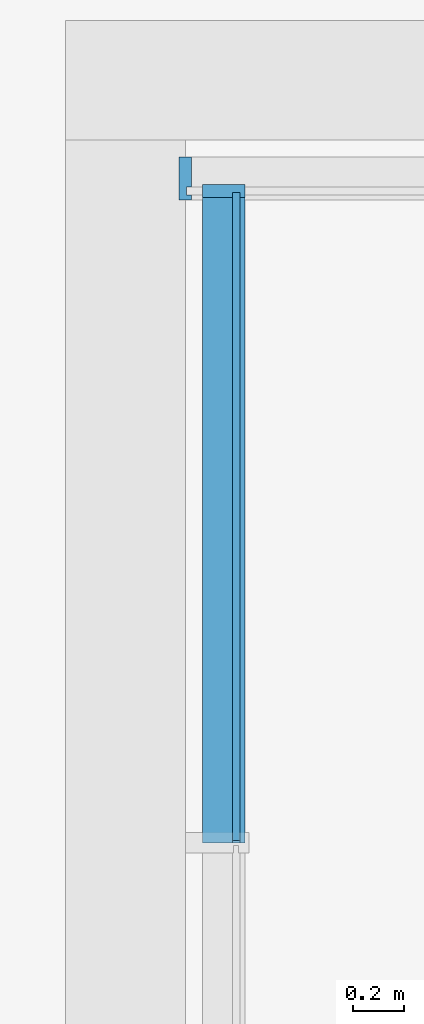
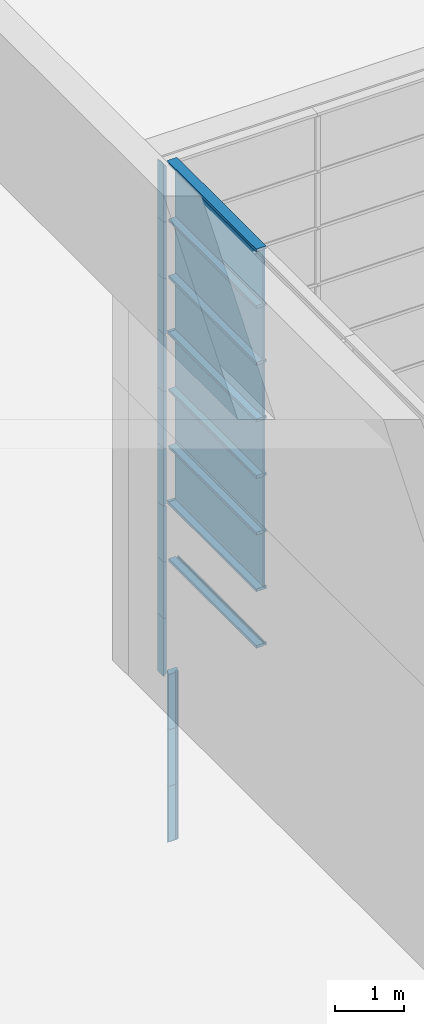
# One storey, part 28 of 105: 28 building element parts, 7 elements without a shape of their own.
"""IFC4 building model written with IfcOpenShell, lengths in millimetres."""

from ifc_helpers import new_model, entity, si_unit, converted_unit, derived_unit, direction, frame, origin_with_axes, place, context, subcontext, project, spatial, triangles, material, element, aggregate, save


model = new_model("IFC4")

# Units and contexts
model_context = context("Model", 3, precision=1e-05, world=origin_with_axes(), true_north=direction((0.0, 1.0)))
body_context = subcontext(model_context, "Body", "Model", "MODEL_VIEW")
ifc_project = project(units=[si_unit("LENGTHUNIT", "METRE", prefix="MILLI"), si_unit("AREAUNIT", "SQUARE_METRE"), si_unit("VOLUMEUNIT", "CUBIC_METRE"), converted_unit("PLANEANGLEUNIT", "DEGREE", entity("IfcLengthMeasure", 0.017453), si_unit("PLANEANGLEUNIT", "RADIAN"), dimensions=[0, 0, 0, 0, 0, 0, 0]), si_unit("SOLIDANGLEUNIT", "STERADIAN"), si_unit("MASSUNIT", "GRAM"), si_unit("TIMEUNIT", "SECOND"), si_unit("THERMODYNAMICTEMPERATUREUNIT", "DEGREE_CELSIUS"), si_unit("LUMINOUSINTENSITYUNIT", "LUMEN"), si_unit("POWERUNIT", "WATT"), derived_unit("THERMALTRANSMITTANCEUNIT", [(si_unit("POWERUNIT", "WATT"), 1), (si_unit("THERMODYNAMICTEMPERATUREUNIT", "KELVIN"), -1), (si_unit("AREAUNIT", "SQUARE_METRE"), -1)])], contexts=[model_context])

# Site, building, storey
site_placement = place(None, origin_with_axes())
site = spatial("IfcSite", under=ifc_project, at=site_placement, Name="Default Site", CompositionType="ELEMENT")
building_placement = place(site_placement, origin_with_axes())
building = spatial("IfcBuilding", under=site, at=building_placement, Name="Default Building", CompositionType="ELEMENT")
storey_placement = place(building_placement, origin_with_axes())
storey = spatial("IfcBuildingStorey", under=building, at=storey_placement, Name="OG - Story", CompositionType="ELEMENT", Elevation=0.0)

# Curtain wall, building element parts
curtain_wall_1_placement = place(storey_placement, origin_with_axes())
curtain_wall_1 = element("IfcCurtainWall", 1, at=curtain_wall_1_placement, inside=storey, Name="Fassade-005", PredefinedType="NOTDEFINED")
ifc_material_1 = material(Name="Blech")
building_element_part_1_placement = place(curtain_wall_1_placement, frame((52496.845873, -27789.262838, 3000.0), z_axis=(0.0, 0.0, 1.0), x_axis=(1.0, 0.0, 0.0)))
building_element_part_1 = element("IfcBuildingElementPart", 2, at=building_element_part_1_placement, material=ifc_material_1, Name="Blech", PredefinedType="NOTDEFINED", context=body_context, shape_type="Tessellation", body=[
    triangles([(-1250.454, 15.0, 1000.0), (-1250.454, 133.0, 1000.0), (-1270.454, 15.0, 1000.0), (-1300.454, 133.0, 1000.0), (-1270.454, -14.999, 1000.0), (-1300.454, -34.999, 1000.0), (-1250.454, -34.999, 1000.0), (-1250.454, -14.999, 1000.0), (-1270.454, 15.0, 5.0), (-1250.454, 15.0, 25.0), (-1250.454, 133.0, 25.0), (-1300.454, 133.0, -24.999), (-1300.454, -34.999, -24.999), (-1250.454, -34.999, 25.0), (-1250.454, -14.999, 25.0), (-1270.454, -14.999, 5.0)], [[1, 2, 3], [3, 2, 4], [3, 4, 5], [5, 4, 6], [5, 6, 7], [5, 7, 8], [3, 9, 10], [3, 10, 1], [10, 11, 2], [10, 2, 1], [2, 11, 12], [2, 12, 4], [4, 12, 13], [4, 13, 6], [6, 13, 14], [6, 14, 7], [8, 7, 14], [8, 14, 15], [15, 16, 5], [15, 5, 8], [5, 16, 9], [5, 9, 3], [10, 11, 9], [9, 11, 12], [9, 12, 16], [16, 12, 13], [16, 13, 15], [15, 13, 14]], closed=False),
])
building_element_part_2_placement = place(curtain_wall_1_placement, frame((52496.845873, -27789.262838, 3000.0), z_axis=(0.0, 0.0, 1.0), x_axis=(1.0, 0.0, 0.0)))
building_element_part_2 = element("IfcBuildingElementPart", 3, at=building_element_part_2_placement, material=ifc_material_1, Name="Blech", PredefinedType="NOTDEFINED", context=body_context, shape_type="Tessellation", body=[
    triangles([(-1250.454, 15.0, 2000.0), (-1250.454, 133.0, 2000.0), (-1270.454, 15.0, 2000.0), (-1300.454, 133.0, 2000.0), (-1270.454, -14.999, 2000.0), (-1300.454, -34.999, 2000.0), (-1250.454, -34.999, 2000.0), (-1250.454, -14.999, 2000.0), (-1270.454, 15.0, 1000.0), (-1250.454, 15.0, 1000.0), (-1250.454, 133.0, 1000.0), (-1300.454, 133.0, 1000.0), (-1300.454, -34.999, 1000.0), (-1250.454, -34.999, 1000.0), (-1250.454, -14.999, 1000.0), (-1270.454, -14.999, 1000.0)], [[1, 2, 3], [3, 2, 4], [3, 4, 5], [5, 4, 6], [5, 6, 7], [5, 7, 8], [3, 9, 10], [3, 10, 1], [10, 11, 2], [10, 2, 1], [11, 12, 4], [11, 4, 2], [12, 13, 6], [12, 6, 4], [13, 14, 7], [13, 7, 6], [8, 7, 14], [8, 14, 15], [15, 16, 5], [15, 5, 8], [5, 16, 9], [5, 9, 3], [16, 9, 12], [16, 12, 13], [16, 13, 14], [16, 14, 15], [11, 12, 9], [11, 9, 10]], closed=False),
])
building_element_part_3_placement = place(curtain_wall_1_placement, frame((52496.845873, -27789.262838, 3000.0), z_axis=(0.0, 0.0, 1.0), x_axis=(1.0, 0.0, 0.0)))
building_element_part_3 = element("IfcBuildingElementPart", 4, at=building_element_part_3_placement, material=ifc_material_1, Name="Blech", PredefinedType="NOTDEFINED", context=body_context, shape_type="Tessellation", body=[
    triangles([(-1250.454, 15.0, 2975.0), (-1250.454, 133.0, 2975.0), (-1270.454, 15.0, 2995.0), (-1300.454, 133.0, 3025.0), (-1270.454, -14.999, 2995.0), (-1300.454, -34.999, 3025.0), (-1250.454, -14.999, 2975.0), (-1250.454, -34.999, 2975.0), (-1270.454, 15.0, 2000.0), (-1250.454, 15.0, 2000.0), (-1250.454, 133.0, 2000.0), (-1300.454, 133.0, 2000.0), (-1300.454, -34.999, 2000.0), (-1250.454, -34.999, 2000.0), (-1250.454, -14.999, 2000.0), (-1270.454, -14.999, 2000.0)], [[1, 2, 3], [3, 2, 4], [3, 4, 5], [5, 4, 6], [5, 6, 7], [7, 6, 8], [3, 9, 10], [3, 10, 1], [10, 11, 2], [10, 2, 1], [11, 12, 4], [11, 4, 2], [12, 13, 6], [12, 6, 4], [13, 14, 8], [13, 8, 6], [7, 8, 14], [7, 14, 15], [15, 16, 5], [15, 5, 7], [5, 16, 9], [5, 9, 3], [16, 9, 12], [16, 12, 13], [16, 13, 14], [16, 14, 15], [11, 12, 9], [11, 9, 10]], closed=False),
])
aggregate(curtain_wall_1, [building_element_part_1, building_element_part_2, building_element_part_3])

curtain_wall_2_placement = place(storey_placement, origin_with_axes())
curtain_wall_2 = element("IfcCurtainWall", 5, at=curtain_wall_2_placement, inside=storey, Name="Fassade-005", PredefinedType="NOTDEFINED")
building_element_part_4_placement = place(curtain_wall_2_placement, frame((52496.845873, -27789.262838, 6000.0), z_axis=(0.0, 0.0, 1.0), x_axis=(1.0, 0.0, 0.0)))
building_element_part_4 = element("IfcBuildingElementPart", 6, at=building_element_part_4_placement, material=ifc_material_1, Name="Blech", PredefinedType="NOTDEFINED", context=body_context, shape_type="Tessellation", body=[
    triangles([(-1250.454, 15.0, 1000.0), (-1250.454, 133.0, 1000.0), (-1270.454, 15.0, 1000.0), (-1300.454, 133.0, 1000.0), (-1270.454, -14.999, 1000.0), (-1300.454, -34.999, 1000.0), (-1250.454, -34.999, 1000.0), (-1250.454, -14.999, 1000.0), (-1270.454, 15.0, 5.0), (-1250.454, 15.0, 25.0), (-1250.454, 133.0, 25.0), (-1300.454, 133.0, -24.999), (-1300.454, -34.999, -24.999), (-1250.454, -34.999, 25.0), (-1250.454, -14.999, 25.0), (-1270.454, -14.999, 5.0)], [[1, 2, 3], [3, 2, 4], [3, 4, 5], [5, 4, 6], [5, 6, 7], [5, 7, 8], [3, 9, 10], [3, 10, 1], [10, 11, 2], [10, 2, 1], [2, 11, 12], [2, 12, 4], [4, 12, 13], [4, 13, 6], [6, 13, 14], [6, 14, 7], [8, 7, 14], [8, 14, 15], [15, 16, 5], [15, 5, 8], [5, 16, 9], [5, 9, 3], [10, 11, 9], [9, 11, 12], [9, 12, 16], [16, 12, 13], [16, 13, 15], [15, 13, 14]], closed=False),
])
building_element_part_5_placement = place(curtain_wall_2_placement, frame((52496.845873, -27789.262838, 6000.0), z_axis=(0.0, 0.0, 1.0), x_axis=(1.0, 0.0, 0.0)))
building_element_part_5 = element("IfcBuildingElementPart", 7, at=building_element_part_5_placement, material=ifc_material_1, Name="Blech", PredefinedType="NOTDEFINED", context=body_context, shape_type="Tessellation", body=[
    triangles([(-1250.454, 15.0, 2000.0), (-1250.454, 133.0, 2000.0), (-1270.454, 15.0, 2000.0), (-1300.454, 133.0, 2000.0), (-1270.454, -14.999, 2000.0), (-1300.454, -34.999, 2000.0), (-1250.454, -34.999, 2000.0), (-1250.454, -14.999, 2000.0), (-1270.454, 15.0, 1000.0), (-1250.454, 15.0, 1000.0), (-1250.454, 133.0, 1000.0), (-1300.454, 133.0, 1000.0), (-1300.454, -34.999, 1000.0), (-1250.454, -34.999, 1000.0), (-1250.454, -14.999, 1000.0), (-1270.454, -14.999, 1000.0)], [[1, 2, 3], [3, 2, 4], [3, 4, 5], [5, 4, 6], [5, 6, 7], [5, 7, 8], [3, 9, 10], [3, 10, 1], [10, 11, 2], [10, 2, 1], [11, 12, 4], [11, 4, 2], [12, 13, 6], [12, 6, 4], [13, 14, 7], [13, 7, 6], [8, 7, 14], [8, 14, 15], [15, 16, 5], [15, 5, 8], [5, 16, 9], [5, 9, 3], [16, 9, 12], [16, 12, 13], [16, 13, 14], [16, 14, 15], [11, 12, 9], [11, 9, 10]], closed=False),
])
building_element_part_6_placement = place(curtain_wall_2_placement, frame((52496.845873, -27789.262838, 6000.0), z_axis=(0.0, 0.0, 1.0), x_axis=(1.0, 0.0, 0.0)))
building_element_part_6 = element("IfcBuildingElementPart", 8, at=building_element_part_6_placement, material=ifc_material_1, Name="Blech", PredefinedType="NOTDEFINED", context=body_context, shape_type="Tessellation", body=[
    triangles([(-1250.454, 15.0, 2975.0), (-1250.454, 133.0, 2975.0), (-1270.454, 15.0, 2995.0), (-1300.454, 133.0, 3025.0), (-1270.454, -14.999, 2995.0), (-1300.454, -34.999, 3025.0), (-1250.454, -14.999, 2975.0), (-1250.454, -34.999, 2975.0), (-1270.454, 15.0, 2000.0), (-1250.454, 15.0, 2000.0), (-1250.454, 133.0, 2000.0), (-1300.454, 133.0, 2000.0), (-1300.454, -34.999, 2000.0), (-1250.454, -34.999, 2000.0), (-1250.454, -14.999, 2000.0), (-1270.454, -14.999, 2000.0)], [[1, 2, 3], [3, 2, 4], [3, 4, 5], [5, 4, 6], [5, 6, 7], [7, 6, 8], [3, 9, 10], [3, 10, 1], [10, 11, 2], [10, 2, 1], [11, 12, 4], [11, 4, 2], [12, 13, 6], [12, 6, 4], [13, 14, 8], [13, 8, 6], [7, 8, 14], [7, 14, 15], [15, 16, 5], [15, 5, 7], [5, 16, 9], [5, 9, 3], [16, 9, 12], [16, 12, 13], [16, 13, 14], [16, 14, 15], [11, 12, 9], [11, 9, 10]], closed=False),
])
aggregate(curtain_wall_2, [building_element_part_4, building_element_part_5, building_element_part_6])

curtain_wall_3_placement = place(storey_placement, origin_with_axes())
curtain_wall_3 = element("IfcCurtainWall", 9, at=curtain_wall_3_placement, inside=storey, Name="Fassade-005", PredefinedType="NOTDEFINED")
building_element_part_7_placement = place(curtain_wall_3_placement, frame((52496.845873, -27789.262838, 9000.0), z_axis=(0.0, 0.0, 1.0), x_axis=(1.0, 0.0, 0.0)))
building_element_part_7 = element("IfcBuildingElementPart", 10, at=building_element_part_7_placement, material=ifc_material_1, Name="Blech", PredefinedType="NOTDEFINED", context=body_context, shape_type="Tessellation", body=[
    triangles([(-1250.454, 15.0, 1000.0), (-1250.454, 133.0, 1000.0), (-1270.454, 15.0, 1000.0), (-1300.454, 133.0, 1000.0), (-1270.454, -14.999, 1000.0), (-1300.454, -34.999, 1000.0), (-1250.454, -34.999, 1000.0), (-1250.454, -14.999, 1000.0), (-1270.454, 15.0, 5.0), (-1250.454, 15.0, 25.0), (-1250.454, 133.0, 25.0), (-1300.454, 133.0, -24.999), (-1300.454, -34.999, -24.999), (-1250.454, -34.999, 25.0), (-1250.454, -14.999, 25.0), (-1270.454, -14.999, 5.0)], [[1, 2, 3], [3, 2, 4], [3, 4, 5], [5, 4, 6], [5, 6, 7], [5, 7, 8], [3, 9, 10], [3, 10, 1], [10, 11, 2], [10, 2, 1], [2, 11, 12], [2, 12, 4], [4, 12, 13], [4, 13, 6], [6, 13, 14], [6, 14, 7], [8, 7, 14], [8, 14, 15], [15, 16, 5], [15, 5, 8], [5, 16, 9], [5, 9, 3], [10, 11, 9], [9, 11, 12], [9, 12, 16], [16, 12, 13], [16, 13, 15], [15, 13, 14]], closed=False),
])
building_element_part_8_placement = place(curtain_wall_3_placement, frame((52496.845873, -27789.262838, 9000.0), z_axis=(0.0, 0.0, 1.0), x_axis=(1.0, 0.0, 0.0)))
building_element_part_8 = element("IfcBuildingElementPart", 11, at=building_element_part_8_placement, material=ifc_material_1, Name="Blech", PredefinedType="NOTDEFINED", context=body_context, shape_type="Tessellation", body=[
    triangles([(-1250.454, 15.0, 2000.0), (-1250.454, 133.0, 2000.0), (-1270.454, 15.0, 2000.0), (-1300.454, 133.0, 2000.0), (-1270.454, -14.999, 2000.0), (-1300.454, -34.999, 2000.0), (-1250.454, -34.999, 2000.0), (-1250.454, -14.999, 2000.0), (-1270.454, 15.0, 1000.0), (-1250.454, 15.0, 1000.0), (-1250.454, 133.0, 1000.0), (-1300.454, 133.0, 1000.0), (-1300.454, -34.999, 1000.0), (-1250.454, -34.999, 1000.0), (-1250.454, -14.999, 1000.0), (-1270.454, -14.999, 1000.0)], [[1, 2, 3], [3, 2, 4], [3, 4, 5], [5, 4, 6], [5, 6, 7], [5, 7, 8], [3, 9, 10], [3, 10, 1], [10, 11, 2], [10, 2, 1], [11, 12, 4], [11, 4, 2], [12, 13, 6], [12, 6, 4], [13, 14, 7], [13, 7, 6], [8, 7, 14], [8, 14, 15], [15, 16, 5], [15, 5, 8], [5, 16, 9], [5, 9, 3], [16, 9, 12], [16, 12, 13], [16, 13, 14], [16, 14, 15], [11, 12, 9], [11, 9, 10]], closed=False),
])
building_element_part_9_placement = place(curtain_wall_3_placement, frame((52496.845873, -27789.262838, 9000.0), z_axis=(0.0, 0.0, 1.0), x_axis=(1.0, 0.0, 0.0)))
building_element_part_9 = element("IfcBuildingElementPart", 12, at=building_element_part_9_placement, material=ifc_material_1, Name="Blech", PredefinedType="NOTDEFINED", context=body_context, shape_type="Tessellation", body=[
    triangles([(-1250.454, 15.0, 2975.0), (-1250.454, 133.0, 2975.0), (-1270.454, 15.0, 2995.0), (-1300.454, 133.0, 3025.0), (-1270.454, -14.999, 2995.0), (-1300.454, -34.999, 3025.0), (-1250.454, -14.999, 2975.0), (-1250.454, -34.999, 2975.0), (-1270.454, 15.0, 2000.0), (-1250.454, 15.0, 2000.0), (-1250.454, 133.0, 2000.0), (-1300.454, 133.0, 2000.0), (-1300.454, -34.999, 2000.0), (-1250.454, -34.999, 2000.0), (-1250.454, -14.999, 2000.0), (-1270.454, -14.999, 2000.0)], [[1, 2, 3], [3, 2, 4], [3, 4, 5], [5, 4, 6], [5, 6, 7], [7, 6, 8], [3, 9, 10], [3, 10, 1], [10, 11, 2], [10, 2, 1], [11, 12, 4], [11, 4, 2], [12, 13, 6], [12, 6, 4], [13, 14, 8], [13, 8, 6], [7, 8, 14], [7, 14, 15], [15, 16, 5], [15, 5, 7], [5, 16, 9], [5, 9, 3], [16, 9, 12], [16, 12, 13], [16, 13, 14], [16, 14, 15], [11, 12, 9], [11, 9, 10]], closed=False),
])
aggregate(curtain_wall_3, [building_element_part_7, building_element_part_8, building_element_part_9])

curtain_wall_4_placement = place(storey_placement, origin_with_axes())
curtain_wall_4 = element("IfcCurtainWall", 13, at=curtain_wall_4_placement, inside=storey, Name="Fassade-006", PredefinedType="NOTDEFINED")
building_element_part_10_placement = place(curtain_wall_4_placement, frame((51421.391327, -39309.262838, 0.0), z_axis=(0.0, 0.0, 1.0), x_axis=(1.0, 0.0, 0.0)))
building_element_part_10 = element("IfcBuildingElementPart", 14, at=building_element_part_10_placement, material=ifc_material_1, Name="Blech", PredefinedType="NOTDEFINED", context=body_context, shape_type="Tessellation", body=[
    triangles([(15.0, 11495.0, 1000.0), (15.0, 11515.0, 1000.0), (35.0, 11545.0, 1000.0), (-14.999, 11515.0, 1000.0), (-132.999, 11495.0, 1000.0), (-14.999, 11495.0, 1000.0), (-132.999, 11545.0, 1000.0), (35.0, 11495.0, 1000.0), (-14.999, 11515.0, 5.0), (15.0, 11515.0, 5.0), (15.0, 11495.0, 25.0), (35.0, 11495.0, 25.0), (35.0, 11545.0, -24.999), (-132.999, 11545.0, -24.999), (-132.999, 11495.0, 25.0), (-14.999, 11495.0, 25.0)], [[1, 2, 3], [3, 2, 4], [3, 4, 5], [5, 4, 6], [3, 5, 7], [1, 3, 8], [2, 4, 9], [2, 9, 10], [11, 1, 2], [11, 2, 10], [1, 11, 12], [1, 12, 8], [3, 8, 12], [3, 12, 13], [7, 3, 13], [7, 13, 14], [5, 7, 14], [5, 14, 15], [16, 6, 5], [16, 5, 15], [4, 6, 16], [4, 16, 9], [16, 15, 9], [9, 15, 14], [9, 14, 10], [10, 14, 13], [10, 13, 12], [10, 12, 11]], closed=False),
])
building_element_part_11_placement = place(curtain_wall_4_placement, frame((51421.391327, -39309.262838, 0.0), z_axis=(0.0, 0.0, 1.0), x_axis=(1.0, 0.0, 0.0)))
building_element_part_11 = element("IfcBuildingElementPart", 15, at=building_element_part_11_placement, material=ifc_material_1, Name="Blech", PredefinedType="NOTDEFINED", context=body_context, shape_type="Tessellation", body=[
    triangles([(15.0, 11495.0, 2000.0), (15.0, 11515.0, 2000.0), (35.0, 11545.0, 2000.0), (-14.999, 11515.0, 2000.0), (-132.999, 11495.0, 2000.0), (-14.999, 11495.0, 2000.0), (-132.999, 11545.0, 2000.0), (35.0, 11495.0, 2000.0), (-14.999, 11515.0, 1000.0), (15.0, 11515.0, 1000.0), (15.0, 11495.0, 1000.0), (35.0, 11495.0, 1000.0), (35.0, 11545.0, 1000.0), (-132.999, 11545.0, 1000.0), (-132.999, 11495.0, 1000.0), (-14.999, 11495.0, 1000.0)], [[1, 2, 3], [3, 2, 4], [3, 4, 5], [5, 4, 6], [3, 5, 7], [1, 3, 8], [2, 4, 9], [2, 9, 10], [11, 1, 2], [11, 2, 10], [1, 11, 12], [1, 12, 8], [13, 3, 8], [13, 8, 12], [14, 7, 3], [14, 3, 13], [15, 5, 7], [15, 7, 14], [16, 6, 5], [16, 5, 15], [4, 6, 16], [4, 16, 9], [13, 12, 11], [13, 11, 10], [13, 10, 9], [13, 9, 15], [13, 15, 14], [16, 15, 9]], closed=False),
])
building_element_part_12_placement = place(curtain_wall_4_placement, frame((51421.391327, -39309.262838, 0.0), z_axis=(0.0, 0.0, 1.0), x_axis=(1.0, 0.0, 0.0)))
building_element_part_12 = element("IfcBuildingElementPart", 16, at=building_element_part_12_placement, material=ifc_material_1, Name="Blech", PredefinedType="NOTDEFINED", context=body_context, shape_type="Tessellation", body=[
    triangles([(15.0, 11515.0, 2995.0), (-14.999, 11515.0, 2995.0), (-132.999, 11545.0, 3025.0), (35.0, 11545.0, 3025.0), (35.0, 11495.0, 2975.0), (15.0, 11495.0, 2975.0), (-14.999, 11495.0, 2975.0), (-132.999, 11495.0, 2975.0), (-14.999, 11515.0, 2000.0), (15.0, 11515.0, 2000.0), (15.0, 11495.0, 2000.0), (35.0, 11495.0, 2000.0), (35.0, 11545.0, 2000.0), (-132.999, 11545.0, 2000.0), (-132.999, 11495.0, 2000.0), (-14.999, 11495.0, 2000.0)], [[1, 2, 3], [1, 3, 4], [1, 4, 5], [1, 5, 6], [7, 8, 3], [7, 3, 2], [1, 2, 9], [1, 9, 10], [11, 6, 1], [11, 1, 10], [6, 11, 12], [6, 12, 5], [13, 4, 5], [13, 5, 12], [14, 3, 4], [14, 4, 13], [15, 8, 3], [15, 3, 14], [16, 7, 8], [16, 8, 15], [2, 7, 16], [2, 16, 9], [13, 12, 11], [13, 11, 10], [13, 10, 9], [13, 9, 15], [13, 15, 14], [16, 15, 9]], closed=False),
])
aggregate(curtain_wall_4, [building_element_part_10, building_element_part_11, building_element_part_12])

curtain_wall_5_placement = place(storey_placement, origin_with_axes())
curtain_wall_5 = element("IfcCurtainWall", 17, at=curtain_wall_5_placement, inside=storey, Name="Fassade-006", PredefinedType="NOTDEFINED")
building_element_part_13_placement = place(curtain_wall_5_placement, frame((51421.391327, -39309.262838, 3000.0), z_axis=(0.0, 0.0, 1.0), x_axis=(1.0, 0.0, 0.0)))
building_element_part_13 = element("IfcBuildingElementPart", 18, at=building_element_part_13_placement, material=ifc_material_1, Name="Blech", PredefinedType="NOTDEFINED", context=body_context, shape_type="Tessellation", body=[
    triangles([(15.0, 11495.0, 2025.0), (35.0, 11495.0, 2025.0), (15.0, 11495.0, 2005.0), (15.0, 11495.0, 1995.0), (-14.999, 11495.0, 2005.0), (-132.999, 11495.0, 2025.0), (-14.999, 11495.0, 2025.0), (35.0, 11495.0, 1975.0), (15.0, 11495.0, 1975.0), (-14.999, 11495.0, 1995.0), (-14.999, 11495.0, 1975.0), (-132.999, 11495.0, 1975.0), (-14.999, 8960.0, 1995.0), (-14.999, 8960.0, 1975.0), (-132.999, 8960.0, 1975.0), (-132.999, 8960.0, 2025.0), (-14.999, 8960.0, 2025.0), (-14.999, 8960.0, 2005.0), (15.0, 8960.0, 2005.0), (15.0, 8960.0, 2025.0), (35.0, 8960.0, 2025.0), (35.0, 8960.0, 1975.0), (15.0, 8960.0, 1975.0), (15.0, 8960.0, 1995.0)], [[1, 2, 3], [3, 2, 4], [3, 4, 5], [5, 4, 6], [5, 6, 7], [8, 9, 4], [8, 4, 2], [6, 4, 10], [6, 10, 11], [6, 11, 12], [11, 10, 13], [11, 13, 14], [11, 14, 15], [11, 15, 12], [6, 12, 15], [6, 15, 16], [7, 6, 16], [7, 16, 17], [7, 17, 18], [7, 18, 5], [5, 18, 19], [5, 19, 3], [1, 3, 19], [1, 19, 20], [20, 21, 2], [20, 2, 1], [8, 2, 21], [8, 21, 22], [23, 9, 8], [23, 8, 22], [4, 9, 23], [4, 23, 24], [10, 4, 24], [10, 24, 13], [17, 16, 18], [18, 16, 13], [18, 13, 19], [19, 13, 24], [19, 24, 21], [21, 24, 23], [21, 23, 22], [15, 14, 13], [15, 13, 16], [19, 21, 20]], closed=False),
])
building_element_part_14_placement = place(curtain_wall_5_placement, frame((51421.391327, -39309.262838, 3000.0), z_axis=(0.0, 0.0, 1.0), x_axis=(1.0, 0.0, 0.0)))
building_element_part_14 = element("IfcBuildingElementPart", 19, at=building_element_part_14_placement, material=ifc_material_1, Name="Blech", PredefinedType="NOTDEFINED", context=body_context, shape_type="Tessellation", body=[
    triangles([(15.0, 11515.0, 2995.0), (-14.999, 11515.0, 2995.0), (-132.999, 11545.0, 3025.0), (35.0, 11545.0, 3025.0), (35.0, 11495.0, 2975.0), (15.0, 11495.0, 2975.0), (-14.999, 11495.0, 2975.0), (-132.999, 11495.0, 2975.0), (-14.999, 8960.0, 2995.0), (-14.999, 8960.0, 2975.0), (-132.999, 8960.0, 2975.0), (-132.999, 8960.0, 3025.0), (35.0, 8960.0, 3025.0), (35.0, 8960.0, 2975.0), (15.0, 8960.0, 2975.0), (15.0, 8960.0, 2995.0)], [[1, 2, 3], [1, 3, 4], [1, 4, 5], [1, 5, 6], [7, 8, 3], [7, 3, 2], [2, 9, 10], [2, 10, 7], [10, 11, 8], [10, 8, 7], [11, 12, 3], [11, 3, 8], [12, 13, 4], [12, 4, 3], [13, 14, 5], [13, 5, 4], [6, 5, 14], [6, 14, 15], [15, 16, 1], [15, 1, 6], [1, 16, 9], [1, 9, 2], [16, 9, 12], [16, 12, 13], [16, 13, 14], [16, 14, 15], [10, 11, 12], [10, 12, 9]], closed=False),
])
aggregate(curtain_wall_5, [building_element_part_13, building_element_part_14])

curtain_wall_6_placement = place(storey_placement, origin_with_axes())
curtain_wall_6 = element("IfcCurtainWall", 20, at=curtain_wall_6_placement, inside=storey, Name="Fassade-006", PredefinedType="NOTDEFINED")
ifc_material_2 = material(Name="Normalglas")
building_element_part_15_placement = place(curtain_wall_6_placement, frame((51421.391327, -39309.262838, 6000.0), z_axis=(0.0, 0.0, 1.0), x_axis=(1.0, 0.0, 0.0)))
building_element_part_15 = element("IfcBuildingElementPart", 21, at=building_element_part_15_placement, material=ifc_material_2, Name="Normalglas", PredefinedType="NOTDEFINED", context=body_context, shape_type="Tessellation", body=[
    triangles([(-14.999, 11515.0, 995.0), (-14.999, 8970.0, 995.0), (15.0, 8970.0, 995.0), (15.0, 11515.0, 995.0), (-14.999, 11515.0, 5.0), (-14.999, 8970.0, 5.0), (15.0, 8970.0, 5.0), (15.0, 11515.0, 5.0)], [[1, 2, 3], [1, 3, 4], [1, 5, 6], [1, 6, 2], [2, 6, 7], [2, 7, 3], [4, 3, 7], [4, 7, 8], [5, 1, 4], [5, 4, 8], [6, 5, 8], [6, 8, 7]], closed=False),
])
building_element_part_16_placement = place(curtain_wall_6_placement, frame((51421.391327, -39309.262838, 6000.0), z_axis=(0.0, 0.0, 1.0), x_axis=(1.0, 0.0, 0.0)))
building_element_part_16 = element("IfcBuildingElementPart", 22, at=building_element_part_16_placement, material=ifc_material_2, Name="Normalglas", PredefinedType="NOTDEFINED", context=body_context, shape_type="Tessellation", body=[
    triangles([(-14.999, 11515.0, 1995.0), (-14.999, 8970.0, 1995.0), (15.0, 8970.0, 1995.0), (15.0, 11515.0, 1995.0), (-14.999, 11515.0, 1005.0), (-14.999, 8970.0, 1005.0), (15.0, 8970.0, 1005.0), (15.0, 11515.0, 1005.0)], [[1, 2, 3], [1, 3, 4], [1, 5, 6], [1, 6, 2], [2, 6, 7], [2, 7, 3], [4, 3, 7], [4, 7, 8], [5, 1, 4], [5, 4, 8], [6, 5, 8], [6, 8, 7]], closed=False),
])
building_element_part_17_placement = place(curtain_wall_6_placement, frame((51421.391327, -39309.262838, 6000.0), z_axis=(0.0, 0.0, 1.0), x_axis=(1.0, 0.0, 0.0)))
building_element_part_17 = element("IfcBuildingElementPart", 23, at=building_element_part_17_placement, material=ifc_material_2, Name="Normalglas", PredefinedType="NOTDEFINED", context=body_context, shape_type="Tessellation", body=[
    triangles([(-14.999, 11515.0, 2995.0), (-14.999, 8970.0, 2995.0), (15.0, 8970.0, 2995.0), (15.0, 11515.0, 2995.0), (-14.999, 11515.0, 2005.0), (-14.999, 8970.0, 2005.0), (15.0, 8970.0, 2005.0), (15.0, 11515.0, 2005.0)], [[1, 2, 3], [1, 3, 4], [1, 5, 6], [1, 6, 2], [2, 6, 7], [2, 7, 3], [4, 3, 7], [4, 7, 8], [5, 1, 4], [5, 4, 8], [6, 5, 8], [6, 8, 7]], closed=False),
])
building_element_part_18_placement = place(curtain_wall_6_placement, frame((51421.391327, -39309.262838, 6000.0), z_axis=(0.0, 0.0, 1.0), x_axis=(1.0, 0.0, 0.0)))
building_element_part_18 = element("IfcBuildingElementPart", 24, at=building_element_part_18_placement, material=ifc_material_1, Name="Blech", PredefinedType="NOTDEFINED", context=body_context, shape_type="Tessellation", body=[
    triangles([(15.0, 11515.0, 5.0), (-14.999, 11515.0, 5.0), (-132.999, 11545.0, -24.999), (35.0, 11545.0, -24.999), (35.0, 11495.0, 25.0), (15.0, 11495.0, 25.0), (-132.999, 11495.0, 25.0), (-14.999, 11495.0, 25.0), (-14.999, 8960.0, 5.0), (15.0, 8960.0, 5.0), (15.0, 8960.0, 25.0), (35.0, 8960.0, 25.0), (35.0, 8960.0, -24.999), (-132.999, 8960.0, -24.999), (-132.999, 8960.0, 25.0), (-14.999, 8960.0, 25.0)], [[1, 2, 3], [1, 3, 4], [1, 4, 5], [1, 5, 6], [7, 3, 2], [7, 2, 8], [1, 2, 9], [1, 9, 10], [11, 6, 1], [11, 1, 10], [6, 11, 12], [6, 12, 5], [13, 4, 5], [13, 5, 12], [14, 3, 4], [14, 4, 13], [15, 7, 3], [15, 3, 14], [16, 8, 7], [16, 7, 15], [2, 8, 16], [2, 16, 9], [16, 15, 9], [9, 15, 14], [9, 14, 10], [10, 14, 13], [10, 13, 12], [10, 12, 11]], closed=False),
])
building_element_part_19_placement = place(curtain_wall_6_placement, frame((51421.391327, -39309.262838, 6000.0), z_axis=(0.0, 0.0, 1.0), x_axis=(1.0, 0.0, 0.0)))
building_element_part_19 = element("IfcBuildingElementPart", 25, at=building_element_part_19_placement, material=ifc_material_1, Name="Blech", PredefinedType="NOTDEFINED", context=body_context, shape_type="Tessellation", body=[
    triangles([(15.0, 11495.0, 1025.0), (35.0, 11495.0, 1025.0), (15.0, 11495.0, 1005.0), (15.0, 11495.0, 995.0), (-14.999, 11495.0, 1005.0), (-132.999, 11495.0, 1025.0), (-14.999, 11495.0, 1025.0), (35.0, 11495.0, 975.0), (15.0, 11495.0, 975.0), (-14.999, 11495.0, 995.0), (-14.999, 11495.0, 975.0), (-132.999, 11495.0, 975.0), (-14.999, 8960.0, 995.0), (-14.999, 8960.0, 975.0), (-132.999, 8960.0, 975.0), (-132.999, 8960.0, 1025.0), (-14.999, 8960.0, 1025.0), (-14.999, 8960.0, 1005.0), (15.0, 8960.0, 1005.0), (15.0, 8960.0, 1025.0), (35.0, 8960.0, 1025.0), (35.0, 8960.0, 975.0), (15.0, 8960.0, 975.0), (15.0, 8960.0, 995.0)], [[1, 2, 3], [3, 2, 4], [3, 4, 5], [5, 4, 6], [5, 6, 7], [8, 9, 4], [8, 4, 2], [6, 4, 10], [6, 10, 11], [6, 11, 12], [11, 10, 13], [11, 13, 14], [11, 14, 15], [11, 15, 12], [6, 12, 15], [6, 15, 16], [7, 6, 16], [7, 16, 17], [7, 17, 18], [7, 18, 5], [5, 18, 19], [5, 19, 3], [1, 3, 19], [1, 19, 20], [20, 21, 2], [20, 2, 1], [8, 2, 21], [8, 21, 22], [23, 9, 8], [23, 8, 22], [4, 9, 23], [4, 23, 24], [10, 4, 24], [10, 24, 13], [17, 16, 18], [18, 16, 13], [18, 13, 19], [19, 13, 24], [19, 24, 21], [21, 24, 23], [21, 23, 22], [15, 14, 13], [15, 13, 16], [19, 21, 20]], closed=False),
])
building_element_part_20_placement = place(curtain_wall_6_placement, frame((51421.391327, -39309.262838, 6000.0), z_axis=(0.0, 0.0, 1.0), x_axis=(1.0, 0.0, 0.0)))
building_element_part_20 = element("IfcBuildingElementPart", 26, at=building_element_part_20_placement, material=ifc_material_1, Name="Blech", PredefinedType="NOTDEFINED", context=body_context, shape_type="Tessellation", body=[
    triangles([(15.0, 11495.0, 2025.0), (35.0, 11495.0, 2025.0), (15.0, 11495.0, 2005.0), (15.0, 11495.0, 1995.0), (-14.999, 11495.0, 2005.0), (-132.999, 11495.0, 2025.0), (-14.999, 11495.0, 2025.0), (35.0, 11495.0, 1975.0), (15.0, 11495.0, 1975.0), (-14.999, 11495.0, 1995.0), (-14.999, 11495.0, 1975.0), (-132.999, 11495.0, 1975.0), (-14.999, 8960.0, 1995.0), (-14.999, 8960.0, 1975.0), (-132.999, 8960.0, 1975.0), (-132.999, 8960.0, 2025.0), (-14.999, 8960.0, 2025.0), (-14.999, 8960.0, 2005.0), (15.0, 8960.0, 2005.0), (15.0, 8960.0, 2025.0), (35.0, 8960.0, 2025.0), (35.0, 8960.0, 1975.0), (15.0, 8960.0, 1975.0), (15.0, 8960.0, 1995.0)], [[1, 2, 3], [3, 2, 4], [3, 4, 5], [5, 4, 6], [5, 6, 7], [8, 9, 4], [8, 4, 2], [6, 4, 10], [6, 10, 11], [6, 11, 12], [11, 10, 13], [11, 13, 14], [11, 14, 15], [11, 15, 12], [6, 12, 15], [6, 15, 16], [7, 6, 16], [7, 16, 17], [7, 17, 18], [7, 18, 5], [5, 18, 19], [5, 19, 3], [1, 3, 19], [1, 19, 20], [20, 21, 2], [20, 2, 1], [8, 2, 21], [8, 21, 22], [23, 9, 8], [23, 8, 22], [4, 9, 23], [4, 23, 24], [10, 4, 24], [10, 24, 13], [17, 16, 18], [18, 16, 13], [18, 13, 19], [19, 13, 24], [19, 24, 21], [21, 24, 23], [21, 23, 22], [15, 14, 13], [15, 13, 16], [19, 21, 20]], closed=False),
])
building_element_part_21_placement = place(curtain_wall_6_placement, frame((51421.391327, -39309.262838, 6000.0), z_axis=(0.0, 0.0, 1.0), x_axis=(1.0, 0.0, 0.0)))
building_element_part_21 = element("IfcBuildingElementPart", 27, at=building_element_part_21_placement, material=ifc_material_1, Name="Blech", PredefinedType="NOTDEFINED", context=body_context, shape_type="Tessellation", body=[
    triangles([(15.0, 11515.0, 2995.0), (-14.999, 11515.0, 2995.0), (-132.999, 11545.0, 3025.0), (35.0, 11545.0, 3025.0), (35.0, 11495.0, 2975.0), (15.0, 11495.0, 2975.0), (-14.999, 11495.0, 2975.0), (-132.999, 11495.0, 2975.0), (-14.999, 8960.0, 2995.0), (-14.999, 8960.0, 2975.0), (-132.999, 8960.0, 2975.0), (-132.999, 8960.0, 3025.0), (35.0, 8960.0, 3025.0), (35.0, 8960.0, 2975.0), (15.0, 8960.0, 2975.0), (15.0, 8960.0, 2995.0)], [[1, 2, 3], [1, 3, 4], [1, 4, 5], [1, 5, 6], [7, 8, 3], [7, 3, 2], [2, 9, 10], [2, 10, 7], [10, 11, 8], [10, 8, 7], [11, 12, 3], [11, 3, 8], [12, 13, 4], [12, 4, 3], [13, 14, 5], [13, 5, 4], [6, 5, 14], [6, 14, 15], [15, 16, 1], [15, 1, 6], [1, 16, 9], [1, 9, 2], [16, 9, 12], [16, 12, 13], [16, 13, 14], [16, 14, 15], [10, 11, 12], [10, 12, 9]], closed=False),
])
aggregate(curtain_wall_6, [building_element_part_15, building_element_part_16, building_element_part_17, building_element_part_18, building_element_part_19, building_element_part_20, building_element_part_21])

curtain_wall_7_placement = place(storey_placement, origin_with_axes())
curtain_wall_7 = element("IfcCurtainWall", 28, at=curtain_wall_7_placement, inside=storey, Name="Fassade-006", PredefinedType="NOTDEFINED")
building_element_part_22_placement = place(curtain_wall_7_placement, frame((51421.391327, -39309.262838, 9000.0), z_axis=(0.0, 0.0, 1.0), x_axis=(1.0, 0.0, 0.0)))
building_element_part_22 = element("IfcBuildingElementPart", 29, at=building_element_part_22_placement, material=ifc_material_2, Name="Normalglas", PredefinedType="NOTDEFINED", context=body_context, shape_type="Tessellation", body=[
    triangles([(-14.999, 11515.0, 995.0), (-14.999, 8970.0, 995.0), (15.0, 8970.0, 995.0), (15.0, 11515.0, 995.0), (-14.999, 11515.0, 5.0), (-14.999, 8970.0, 5.0), (15.0, 8970.0, 5.0), (15.0, 11515.0, 5.0)], [[1, 2, 3], [1, 3, 4], [1, 5, 6], [1, 6, 2], [2, 6, 7], [2, 7, 3], [4, 3, 7], [4, 7, 8], [5, 1, 4], [5, 4, 8], [6, 5, 8], [6, 8, 7]], closed=False),
])
building_element_part_23_placement = place(curtain_wall_7_placement, frame((51421.391327, -39309.262838, 9000.0), z_axis=(0.0, 0.0, 1.0), x_axis=(1.0, 0.0, 0.0)))
building_element_part_23 = element("IfcBuildingElementPart", 30, at=building_element_part_23_placement, material=ifc_material_2, Name="Normalglas", PredefinedType="NOTDEFINED", context=body_context, shape_type="Tessellation", body=[
    triangles([(-14.999, 11515.0, 1995.0), (-14.999, 8970.0, 1995.0), (15.0, 8970.0, 1995.0), (15.0, 11515.0, 1995.0), (-14.999, 11515.0, 1005.0), (-14.999, 8970.0, 1005.0), (15.0, 8970.0, 1005.0), (15.0, 11515.0, 1005.0)], [[1, 2, 3], [1, 3, 4], [1, 5, 6], [1, 6, 2], [2, 6, 7], [2, 7, 3], [4, 3, 7], [4, 7, 8], [5, 1, 4], [5, 4, 8], [6, 5, 8], [6, 8, 7]], closed=False),
])
building_element_part_24_placement = place(curtain_wall_7_placement, frame((51421.391327, -39309.262838, 9000.0), z_axis=(0.0, 0.0, 1.0), x_axis=(1.0, 0.0, 0.0)))
building_element_part_24 = element("IfcBuildingElementPart", 31, at=building_element_part_24_placement, material=ifc_material_2, Name="Normalglas", PredefinedType="NOTDEFINED", context=body_context, shape_type="Tessellation", body=[
    triangles([(-14.999, 11515.0, 2995.0), (-14.999, 8970.0, 2995.0), (15.0, 8970.0, 2995.0), (15.0, 11515.0, 2995.0), (-14.999, 11515.0, 2005.0), (-14.999, 8970.0, 2005.0), (15.0, 8970.0, 2005.0), (15.0, 11515.0, 2005.0)], [[1, 2, 3], [1, 3, 4], [1, 5, 6], [1, 6, 2], [2, 6, 7], [2, 7, 3], [4, 3, 7], [4, 7, 8], [5, 1, 4], [5, 4, 8], [6, 5, 8], [6, 8, 7]], closed=False),
])
building_element_part_25_placement = place(curtain_wall_7_placement, frame((51421.391327, -39309.262838, 9000.0), z_axis=(0.0, 0.0, 1.0), x_axis=(1.0, 0.0, 0.0)))
building_element_part_25 = element("IfcBuildingElementPart", 32, at=building_element_part_25_placement, material=ifc_material_1, Name="Blech", PredefinedType="NOTDEFINED", context=body_context, shape_type="Tessellation", body=[
    triangles([(15.0, 11515.0, 5.0), (-14.999, 11515.0, 5.0), (-132.999, 11545.0, -24.999), (35.0, 11545.0, -24.999), (35.0, 11495.0, 25.0), (15.0, 11495.0, 25.0), (-132.999, 11495.0, 25.0), (-14.999, 11495.0, 25.0), (-14.999, 8960.0, 5.0), (15.0, 8960.0, 5.0), (15.0, 8960.0, 25.0), (35.0, 8960.0, 25.0), (35.0, 8960.0, -24.999), (-132.999, 8960.0, -24.999), (-132.999, 8960.0, 25.0), (-14.999, 8960.0, 25.0)], [[1, 2, 3], [1, 3, 4], [1, 4, 5], [1, 5, 6], [7, 3, 2], [7, 2, 8], [1, 2, 9], [1, 9, 10], [11, 6, 1], [11, 1, 10], [6, 11, 12], [6, 12, 5], [13, 4, 5], [13, 5, 12], [14, 3, 4], [14, 4, 13], [15, 7, 3], [15, 3, 14], [16, 8, 7], [16, 7, 15], [2, 8, 16], [2, 16, 9], [16, 15, 9], [9, 15, 14], [9, 14, 10], [10, 14, 13], [10, 13, 12], [10, 12, 11]], closed=False),
])
building_element_part_26_placement = place(curtain_wall_7_placement, frame((51421.391327, -39309.262838, 9000.0), z_axis=(0.0, 0.0, 1.0), x_axis=(1.0, 0.0, 0.0)))
building_element_part_26 = element("IfcBuildingElementPart", 33, at=building_element_part_26_placement, material=ifc_material_1, Name="Blech", PredefinedType="NOTDEFINED", context=body_context, shape_type="Tessellation", body=[
    triangles([(15.0, 11495.0, 1025.0), (35.0, 11495.0, 1025.0), (15.0, 11495.0, 1005.0), (15.0, 11495.0, 995.0), (-14.999, 11495.0, 1005.0), (-132.999, 11495.0, 1025.0), (-14.999, 11495.0, 1025.0), (35.0, 11495.0, 975.0), (15.0, 11495.0, 975.0), (-14.999, 11495.0, 995.0), (-14.999, 11495.0, 975.0), (-132.999, 11495.0, 975.0), (-14.999, 8960.0, 995.0), (-14.999, 8960.0, 975.0), (-132.999, 8960.0, 975.0), (-132.999, 8960.0, 1025.0), (-14.999, 8960.0, 1025.0), (-14.999, 8960.0, 1005.0), (15.0, 8960.0, 1005.0), (15.0, 8960.0, 1025.0), (35.0, 8960.0, 1025.0), (35.0, 8960.0, 975.0), (15.0, 8960.0, 975.0), (15.0, 8960.0, 995.0)], [[1, 2, 3], [3, 2, 4], [3, 4, 5], [5, 4, 6], [5, 6, 7], [8, 9, 4], [8, 4, 2], [6, 4, 10], [6, 10, 11], [6, 11, 12], [11, 10, 13], [11, 13, 14], [11, 14, 15], [11, 15, 12], [6, 12, 15], [6, 15, 16], [7, 6, 16], [7, 16, 17], [7, 17, 18], [7, 18, 5], [5, 18, 19], [5, 19, 3], [1, 3, 19], [1, 19, 20], [20, 21, 2], [20, 2, 1], [8, 2, 21], [8, 21, 22], [23, 9, 8], [23, 8, 22], [4, 9, 23], [4, 23, 24], [10, 4, 24], [10, 24, 13], [17, 16, 18], [18, 16, 13], [18, 13, 19], [19, 13, 24], [19, 24, 21], [21, 24, 23], [21, 23, 22], [15, 14, 13], [15, 13, 16], [19, 21, 20]], closed=False),
])
building_element_part_27_placement = place(curtain_wall_7_placement, frame((51421.391327, -39309.262838, 9000.0), z_axis=(0.0, 0.0, 1.0), x_axis=(1.0, 0.0, 0.0)))
building_element_part_27 = element("IfcBuildingElementPart", 34, at=building_element_part_27_placement, material=ifc_material_1, Name="Blech", PredefinedType="NOTDEFINED", context=body_context, shape_type="Tessellation", body=[
    triangles([(15.0, 11495.0, 2025.0), (35.0, 11495.0, 2025.0), (15.0, 11495.0, 2005.0), (15.0, 11495.0, 1995.0), (-14.999, 11495.0, 2005.0), (-132.999, 11495.0, 2025.0), (-14.999, 11495.0, 2025.0), (35.0, 11495.0, 1975.0), (15.0, 11495.0, 1975.0), (-14.999, 11495.0, 1995.0), (-14.999, 11495.0, 1975.0), (-132.999, 11495.0, 1975.0), (-14.999, 8960.0, 1995.0), (-14.999, 8960.0, 1975.0), (-132.999, 8960.0, 1975.0), (-132.999, 8960.0, 2025.0), (-14.999, 8960.0, 2025.0), (-14.999, 8960.0, 2005.0), (15.0, 8960.0, 2005.0), (15.0, 8960.0, 2025.0), (35.0, 8960.0, 2025.0), (35.0, 8960.0, 1975.0), (15.0, 8960.0, 1975.0), (15.0, 8960.0, 1995.0)], [[1, 2, 3], [3, 2, 4], [3, 4, 5], [5, 4, 6], [5, 6, 7], [8, 9, 4], [8, 4, 2], [6, 4, 10], [6, 10, 11], [6, 11, 12], [11, 10, 13], [11, 13, 14], [11, 14, 15], [11, 15, 12], [6, 12, 15], [6, 15, 16], [7, 6, 16], [7, 16, 17], [7, 17, 18], [7, 18, 5], [5, 18, 19], [5, 19, 3], [1, 3, 19], [1, 19, 20], [20, 21, 2], [20, 2, 1], [8, 2, 21], [8, 21, 22], [23, 9, 8], [23, 8, 22], [4, 9, 23], [4, 23, 24], [10, 4, 24], [10, 24, 13], [17, 16, 18], [18, 16, 13], [18, 13, 19], [19, 13, 24], [19, 24, 21], [21, 24, 23], [21, 23, 22], [15, 14, 13], [15, 13, 16], [19, 21, 20]], closed=False),
])
building_element_part_28_placement = place(curtain_wall_7_placement, frame((51421.391327, -39309.262838, 9000.0), z_axis=(0.0, 0.0, 1.0), x_axis=(1.0, 0.0, 0.0)))
building_element_part_28 = element("IfcBuildingElementPart", 35, at=building_element_part_28_placement, material=ifc_material_1, Name="Blech", PredefinedType="NOTDEFINED", context=body_context, shape_type="Tessellation", body=[
    triangles([(15.0, 11515.0, 2995.0), (-14.999, 11515.0, 2995.0), (-132.999, 11545.0, 3025.0), (35.0, 11545.0, 3025.0), (35.0, 11495.0, 2975.0), (15.0, 11495.0, 2975.0), (-14.999, 11495.0, 2975.0), (-132.999, 11495.0, 2975.0), (-14.999, 8960.0, 2995.0), (-14.999, 8960.0, 2975.0), (-132.999, 8960.0, 2975.0), (-132.999, 8960.0, 3025.0), (35.0, 8960.0, 3025.0), (35.0, 8960.0, 2975.0), (15.0, 8960.0, 2975.0), (15.0, 8960.0, 2995.0)], [[1, 2, 3], [1, 3, 4], [1, 4, 5], [1, 5, 6], [7, 8, 3], [7, 3, 2], [2, 9, 10], [2, 10, 7], [10, 11, 8], [10, 8, 7], [11, 12, 3], [11, 3, 8], [12, 13, 4], [12, 4, 3], [13, 14, 5], [13, 5, 4], [6, 5, 14], [6, 14, 15], [15, 16, 1], [15, 1, 6], [1, 16, 9], [1, 9, 2], [16, 9, 12], [16, 12, 13], [16, 13, 14], [16, 14, 15], [10, 11, 12], [10, 12, 9]], closed=False),
])
aggregate(curtain_wall_7, [building_element_part_22, building_element_part_23, building_element_part_24, building_element_part_25, building_element_part_26, building_element_part_27, building_element_part_28])

save(model, "model.ifc")
